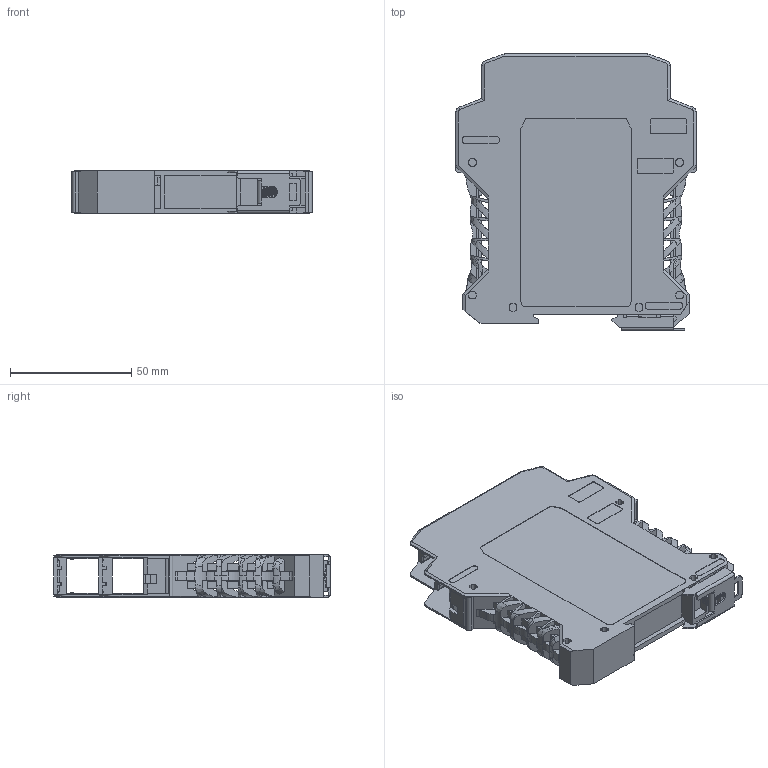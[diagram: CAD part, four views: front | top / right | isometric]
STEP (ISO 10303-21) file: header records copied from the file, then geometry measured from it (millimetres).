
FILE_DESCRIPTION(('FreeCAD Model'),'2;1');
FILE_NAME('Open CASCADE Shape Model','2023-04-20T09:53:22',('Author'),( ''),'Open CASCADE STEP processor 7.6','FreeCAD','Unknown');
FILE_SCHEMA(('AUTOMOTIVE_DESIGN { 1 0 10303 214 1 1 1 1 }'));
Products named in the file (1): CPME-DIN17,5-V
Bounding box: 99 x 113.9 x 17.5 mm (x, y, z)
Surface area: 57186 mm2 (no closed solid volume)
Topology: 0 solids, 1 shells, 2349 faces, 6994 edges, 4554 vertices
Faces by surface type: plane 2073, cylinder 215, bspline 47, cone 10, torus 4
Entity records: 181083 total; most frequent: CARTESIAN_POINT 47871, DIRECTION 22747, LINE 16873, VECTOR 16873, ORIENTED_EDGE 13960, PCURVE 13960, DEFINITIONAL_REPRESENTATION 13960, EDGE_CURVE 6980
